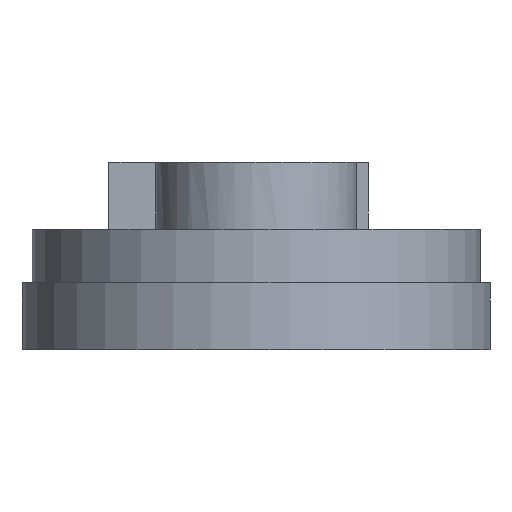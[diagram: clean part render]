
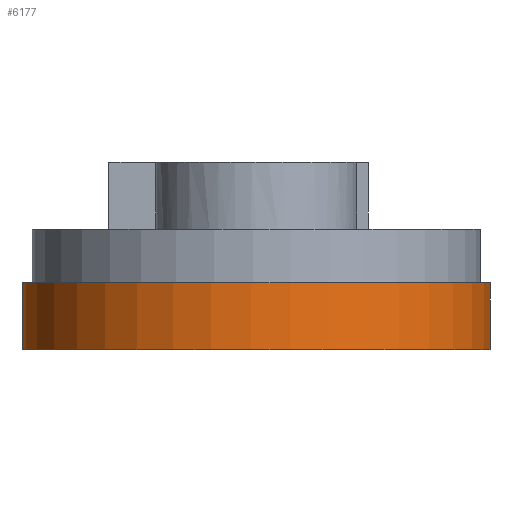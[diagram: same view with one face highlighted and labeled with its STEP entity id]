
A CAD part, left-side view. The second image highlights one B-rep face of the part: STEP entity #6177.
In plain terms, the highlighted cylindrical face has radius 35 mm (diameter 70 mm), a partial arc.
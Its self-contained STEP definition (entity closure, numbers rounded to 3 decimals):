
#120=CIRCLE('',#6404,35.);
#220=CIRCLE('',#6552,35.);
#664=FACE_OUTER_BOUND('',#1034,.T.);
#1034=EDGE_LOOP('',(#4881,#4882,#4883,#4884));
#1510=LINE('',#9445,#2199);
#1592=LINE('',#9625,#2281);
#2199=VECTOR('',#7529,10.);
#2281=VECTOR('',#7715,10.);
#2673=VERTEX_POINT('',#8810);
#2674=VERTEX_POINT('',#8812);
#2923=VERTEX_POINT('',#9403);
#2937=VERTEX_POINT('',#9431);
#3295=EDGE_CURVE('',#2673,#2674,#120,.T.);
#3604=EDGE_CURVE('',#2923,#2937,#220,.T.);
#3610=EDGE_CURVE('',#2673,#2923,#1510,.T.);
#3698=EDGE_CURVE('',#2674,#2937,#1592,.T.);
#4881=ORIENTED_EDGE('',*,*,#3698,.F.);
#4882=ORIENTED_EDGE('',*,*,#3295,.F.);
#4883=ORIENTED_EDGE('',*,*,#3610,.T.);
#4884=ORIENTED_EDGE('',*,*,#3604,.T.);
#5975=CYLINDRICAL_SURFACE('',#6608,35.);
#6177=ADVANCED_FACE('',(#664),#5975,.T.);
#6404=AXIS2_PLACEMENT_3D('',#8813,#7011,#7012);
#6552=AXIS2_PLACEMENT_3D('',#9433,#7516,#7517);
#6608=AXIS2_PLACEMENT_3D('',#9627,#7717,#7718);
#7011=DIRECTION('center_axis',(0.,0.,-1.));
#7012=DIRECTION('ref_axis',(-0.778,-0.629,0.));
#7516=DIRECTION('center_axis',(0.,0.,-1.));
#7517=DIRECTION('ref_axis',(-0.026,-1.,0.));
#7529=DIRECTION('',(0.,0.,1.));
#7715=DIRECTION('',(0.,0.,1.));
#7717=DIRECTION('center_axis',(0.,0.,1.));
#7718=DIRECTION('ref_axis',(-0.778,-0.629,0.));
#8810=CARTESIAN_POINT('',(9.547,-33.673,0.));
#8812=CARTESIAN_POINT('',(25.92,23.519,0.));
#8813=CARTESIAN_POINT('Origin',(0.,0.,0.));
#9403=CARTESIAN_POINT('',(9.547,-33.673,10.));
#9431=CARTESIAN_POINT('',(25.92,23.519,10.));
#9433=CARTESIAN_POINT('Origin',(0.,0.,10.));
#9445=CARTESIAN_POINT('',(9.547,-33.673,0.));
#9625=CARTESIAN_POINT('',(25.92,23.519,18.));
#9627=CARTESIAN_POINT('Origin',(0.,0.,18.));
